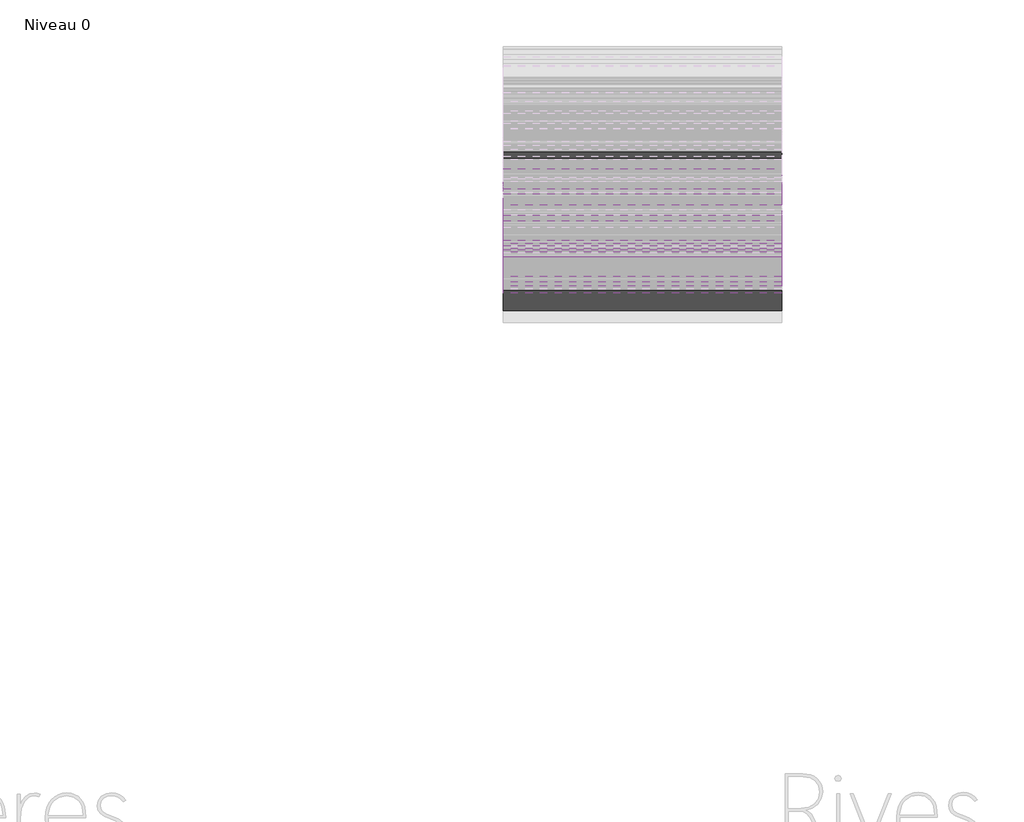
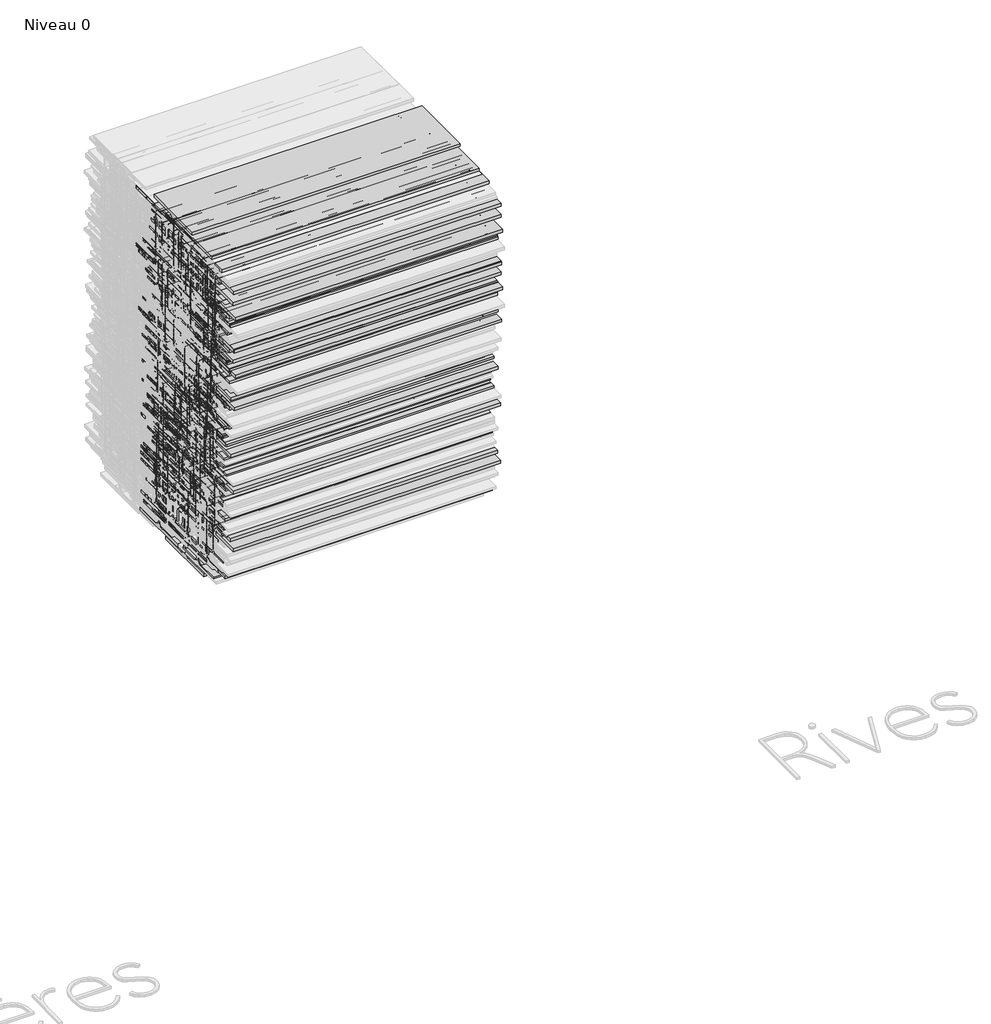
# One storey, part 9 of 26: 157 beams.
"""IFC4 building model written with IfcOpenShell, lengths in millimetres."""

from ifc_helpers import new_model, si_unit, origin, place, context, project, spatial, transform, mapped, element, save
from components import hea160_c7043086, hea240_b9c7735d, hea300_d8dc5cb0

model = new_model("IFC4")

# Units and contexts
model_context = context("Model", 3, world=origin())
ifc_project = project(units=[si_unit("LENGTHUNIT", "METRE", prefix="MILLI")], contexts=[model_context])

# Site, building, storey
site = spatial("IfcSite", under=ifc_project)
building = spatial("IfcBuilding", under=site)
storey = spatial("IfcBuildingStorey", under=building, Name="Niveau 0", Elevation=0.0)

# Beams
placement = place(None, origin())
hea160_shape = hea160_c7043086(model_context)
element("IfcBeam", 1, ObjectType="HE-A : HEA160", at=placement, inside=storey, context=model_context, shape_type="MappedRepresentation", body=[
    mapped(hea160_shape, transform((0.0, -5310.2474477, 734.0137583), x_axis=(1.0, 0.0, 0.0), y_axis=(0.0, 1.0, 0.0), z_axis=(0.0, 0.0, 1.0))),
])
element("IfcBeam", 2, ObjectType="HE-A : HEA160", at=placement, inside=storey, context=model_context, shape_type="MappedRepresentation", body=[
    mapped(hea160_shape, transform((0.0, -5156.6232445, 602.3054206), x_axis=(1.0, 0.0, 0.0), y_axis=(0.0, 1.0, 0.0), z_axis=(0.0, 0.0, 1.0))),
])
element("IfcBeam", 3, ObjectType="HE-A : HEA160", at=placement, inside=storey, context=model_context, shape_type="MappedRepresentation", body=[
    mapped(hea160_shape, transform((0.0, -5195.6267569, 621.5759526), x_axis=(1.0, 0.0, 0.0), y_axis=(0.0, 1.0, 0.0), z_axis=(0.0, 0.0, 1.0))),
])
element("IfcBeam", 4, ObjectType="HE-A : HEA160", at=placement, inside=storey, context=model_context, shape_type="MappedRepresentation", body=[
    mapped(hea160_shape, transform((0.0, -5408.6812732, 684.6616277), x_axis=(1.0, 0.0, 0.0), y_axis=(0.0, 1.0, 0.0), z_axis=(0.0, 0.0, 1.0))),
])
element("IfcBeam", 5, ObjectType="HE-A : HEA160", at=placement, inside=storey, context=model_context, shape_type="MappedRepresentation", body=[
    mapped(hea160_shape, transform((0.0, -5413.0995592, 768.2811761), x_axis=(1.0, 0.0, 0.0), y_axis=(0.0, 1.0, 0.0), z_axis=(0.0, 0.0, 1.0))),
])
element("IfcBeam", 6, ObjectType="HE-A : HEA160", at=placement, inside=storey, context=model_context, shape_type="MappedRepresentation", body=[
    mapped(hea160_shape, transform((0.0, -5424.0973025, 269.5728981), x_axis=(1.0, 0.0, 0.0), y_axis=(0.0, 1.0, 0.0), z_axis=(0.0, 0.0, 1.0))),
])
element("IfcBeam", 7, ObjectType="HE-A : HEA160", at=placement, inside=storey, context=model_context, shape_type="MappedRepresentation", body=[
    mapped(hea160_shape, transform((0.0, -5417.2380481, 1163.1332694), x_axis=(1.0, 0.0, 0.0), y_axis=(0.0, 1.0, 0.0), z_axis=(0.0, 0.0, 1.0))),
])
element("IfcBeam", 8, ObjectType="HE-A : HEA160", at=placement, inside=storey, context=model_context, shape_type="MappedRepresentation", body=[
    mapped(hea160_shape, transform((0.0, -5452.8932536, 1163.4501627), x_axis=(1.0, 0.0, 0.0), y_axis=(0.0, 1.0, 0.0), z_axis=(0.0, 0.0, 1.0))),
])
element("IfcBeam", 9, ObjectType="HE-A : HEA160", at=placement, inside=storey, context=model_context, shape_type="MappedRepresentation", body=[
    mapped(hea160_shape, transform((0.0, -5090.8767213, 305.532705), x_axis=(1.0, 0.0, 0.0), y_axis=(0.0, 1.0, 0.0), z_axis=(0.0, 0.0, 1.0))),
])
element("IfcBeam", 10, ObjectType="HE-A : HEA160", at=placement, inside=storey, context=model_context, shape_type="MappedRepresentation", body=[
    mapped(hea160_shape, transform((0.0, -5068.291238, 231.2218942), x_axis=(1.0, 0.0, 0.0), y_axis=(0.0, 1.0, 0.0), z_axis=(0.0, 0.0, 1.0))),
])
element("IfcBeam", 11, ObjectType="HE-A : HEA160", at=placement, inside=storey, context=model_context, shape_type="MappedRepresentation", body=[
    mapped(hea160_shape, transform((0.0, -5076.8345222, 23.8951277), x_axis=(1.0, 0.0, 0.0), y_axis=(0.0, 1.0, 0.0), z_axis=(0.0, 0.0, 1.0))),
])
element("IfcBeam", 12, ObjectType="HE-A : HEA160", at=placement, inside=storey, context=model_context, shape_type="MappedRepresentation", body=[
    mapped(hea160_shape, transform((0.0, -5278.7500388, 255.0826864), x_axis=(1.0, 0.0, 0.0), y_axis=(0.0, 1.0, 0.0), z_axis=(0.0, 0.0, 1.0))),
])
element("IfcBeam", 13, ObjectType="HE-A : HEA160", at=placement, inside=storey, context=model_context, shape_type="MappedRepresentation", body=[
    mapped(hea160_shape, transform((0.0, -5185.9562163, 507.660791), x_axis=(1.0, 0.0, 0.0), y_axis=(0.0, 1.0, 0.0), z_axis=(0.0, 0.0, 1.0))),
])
element("IfcBeam", 14, ObjectType="HE-A : HEA160", at=placement, inside=storey, context=model_context, shape_type="MappedRepresentation", body=[
    mapped(hea160_shape, transform((0.0, -5148.429632, 542.4529783), x_axis=(1.0, 0.0, 0.0), y_axis=(0.0, 1.0, 0.0), z_axis=(0.0, 0.0, 1.0))),
])
element("IfcBeam", 15, ObjectType="HE-A : HEA160", at=placement, inside=storey, context=model_context, shape_type="MappedRepresentation", body=[
    mapped(hea160_shape, transform((0.0, -5092.6139111, 982.3152341), x_axis=(1.0, 0.0, 0.0), y_axis=(0.0, 1.0, 0.0), z_axis=(0.0, 0.0, 1.0))),
])
element("IfcBeam", 16, ObjectType="HE-A : HEA160", at=placement, inside=storey, context=model_context, shape_type="MappedRepresentation", body=[
    mapped(hea160_shape, transform((0.0, -5475.0795286, 858.2683643), x_axis=(1.0, 0.0, 0.0), y_axis=(0.0, 1.0, 0.0), z_axis=(0.0, 0.0, 1.0))),
])
element("IfcBeam", 17, ObjectType="HE-A : HEA160", at=placement, inside=storey, context=model_context, shape_type="MappedRepresentation", body=[
    mapped(hea160_shape, transform((0.0, -5451.5943952, 226.1417788), x_axis=(1.0, 0.0, 0.0), y_axis=(0.0, 1.0, 0.0), z_axis=(0.0, 0.0, 1.0))),
])
element("IfcBeam", 18, ObjectType="HE-A : HEA160", at=placement, inside=storey, context=model_context, shape_type="MappedRepresentation", body=[
    mapped(hea160_shape, transform((0.0, -5452.3549311, 1122.9046108), x_axis=(1.0, 0.0, 0.0), y_axis=(0.0, 1.0, 0.0), z_axis=(0.0, 0.0, 1.0))),
])
element("IfcBeam", 19, ObjectType="HE-A : HEA160", at=placement, inside=storey, context=model_context, shape_type="MappedRepresentation", body=[
    mapped(hea160_shape, transform((0.0, -5487.2560454, 1074.9316009), x_axis=(1.0, 0.0, 0.0), y_axis=(0.0, 1.0, 0.0), z_axis=(0.0, 0.0, 1.0))),
])
element("IfcBeam", 20, ObjectType="HE-A : HEA160", at=placement, inside=storey, context=model_context, shape_type="MappedRepresentation", body=[
    mapped(hea160_shape, transform((0.0, -5366.8637856, 1328.08809), x_axis=(1.0, 0.0, 0.0), y_axis=(0.0, 1.0, 0.0), z_axis=(0.0, 0.0, 1.0))),
])
element("IfcBeam", 21, ObjectType="HE-A : HEA160", at=placement, inside=storey, context=model_context, shape_type="MappedRepresentation", body=[
    mapped(hea160_shape, transform((0.0, -5392.8745728, 1287.1530981), x_axis=(1.0, 0.0, 0.0), y_axis=(0.0, 1.0, 0.0), z_axis=(0.0, 0.0, 1.0))),
])
element("IfcBeam", 22, ObjectType="HE-A : HEA160", at=placement, inside=storey, context=model_context, shape_type="MappedRepresentation", body=[
    mapped(hea160_shape, transform((0.0, -5408.721485, 1322.8815273), x_axis=(1.0, 0.0, 0.0), y_axis=(0.0, 1.0, 0.0), z_axis=(0.0, 0.0, 1.0))),
])
element("IfcBeam", 23, ObjectType="HE-A : HEA160", at=placement, inside=storey, context=model_context, shape_type="MappedRepresentation", body=[
    mapped(hea160_shape, transform((0.0, -5315.808306, 607.5529659), x_axis=(1.0, 0.0, 0.0), y_axis=(0.0, 1.0, 0.0), z_axis=(0.0, 0.0, 1.0))),
])
element("IfcBeam", 24, ObjectType="HE-A : HEA160", at=placement, inside=storey, context=model_context, shape_type="MappedRepresentation", body=[
    mapped(hea160_shape, transform((0.0, -5273.8264166, 673.9044938), x_axis=(1.0, 0.0, 0.0), y_axis=(0.0, 1.0, 0.0), z_axis=(0.0, 0.0, 1.0))),
])
element("IfcBeam", 25, ObjectType="HE-A : HEA160", at=placement, inside=storey, context=model_context, shape_type="MappedRepresentation", body=[
    mapped(hea160_shape, transform((0.0, -5054.8941824, 1314.7753347), x_axis=(1.0, 0.0, 0.0), y_axis=(0.0, 1.0, 0.0), z_axis=(0.0, 0.0, 1.0))),
])
element("IfcBeam", 26, ObjectType="HE-A : HEA160", at=placement, inside=storey, context=model_context, shape_type="MappedRepresentation", body=[
    mapped(hea160_shape, transform((0.0, -5440.0590715, 1294.1323523), x_axis=(1.0, 0.0, 0.0), y_axis=(0.0, 1.0, 0.0), z_axis=(0.0, 0.0, 1.0))),
])
element("IfcBeam", 27, ObjectType="HE-A : HEA160", at=placement, inside=storey, context=model_context, shape_type="MappedRepresentation", body=[
    mapped(hea160_shape, transform((0.0, -5407.4164117, 437.0562676), x_axis=(1.0, 0.0, 0.0), y_axis=(0.0, 1.0, 0.0), z_axis=(0.0, 0.0, 1.0))),
])
element("IfcBeam", 28, ObjectType="HE-A : HEA160", at=placement, inside=storey, context=model_context, shape_type="MappedRepresentation", body=[
    mapped(hea160_shape, transform((0.0, -5406.2451982, 606.9308561), x_axis=(1.0, 0.0, 0.0), y_axis=(0.0, 1.0, 0.0), z_axis=(0.0, 0.0, 1.0))),
])
element("IfcBeam", 29, ObjectType="HE-A : HEA160", at=placement, inside=storey, context=model_context, shape_type="MappedRepresentation", body=[
    mapped(hea160_shape, transform((0.0, -5322.1846436, 459.9355121), x_axis=(1.0, 0.0, 0.0), y_axis=(0.0, 1.0, 0.0), z_axis=(0.0, 0.0, 1.0))),
])
element("IfcBeam", 30, ObjectType="HE-A : HEA160", at=placement, inside=storey, context=model_context, shape_type="MappedRepresentation", body=[
    mapped(hea160_shape, transform((0.0, -5084.0772269, 662.6042139), x_axis=(1.0, 0.0, 0.0), y_axis=(0.0, 1.0, 0.0), z_axis=(0.0, 0.0, 1.0))),
])
element("IfcBeam", 31, ObjectType="HE-A : HEA160", at=placement, inside=storey, context=model_context, shape_type="MappedRepresentation", body=[
    mapped(hea160_shape, transform((0.0, -5418.7467929, 38.8577432), x_axis=(1.0, 0.0, 0.0), y_axis=(0.0, 1.0, 0.0), z_axis=(0.0, 0.0, 1.0))),
])
element("IfcBeam", 32, ObjectType="HE-A : HEA160", at=placement, inside=storey, context=model_context, shape_type="MappedRepresentation", body=[
    mapped(hea160_shape, transform((0.0, -5394.4269431, 384.4364304), x_axis=(1.0, 0.0, 0.0), y_axis=(0.0, 1.0, 0.0), z_axis=(0.0, 0.0, 1.0))),
])
element("IfcBeam", 33, ObjectType="HE-A : HEA160", at=placement, inside=storey, context=model_context, shape_type="MappedRepresentation", body=[
    mapped(hea160_shape, transform((0.0, -5457.982213, 392.9262124), x_axis=(1.0, 0.0, 0.0), y_axis=(0.0, 1.0, 0.0), z_axis=(0.0, 0.0, 1.0))),
])
element("IfcBeam", 34, ObjectType="HE-A : HEA160", at=placement, inside=storey, context=model_context, shape_type="MappedRepresentation", body=[
    mapped(hea160_shape, transform((0.0, -5084.2120675, 75.0731406), x_axis=(1.0, 0.0, 0.0), y_axis=(0.0, 1.0, 0.0), z_axis=(0.0, 0.0, 1.0))),
])
element("IfcBeam", 35, ObjectType="HE-A : HEA160", at=placement, inside=storey, context=model_context, shape_type="MappedRepresentation", body=[
    mapped(hea160_shape, transform((0.0, -5009.4813796, 133.8237114), x_axis=(1.0, 0.0, 0.0), y_axis=(0.0, 1.0, 0.0), z_axis=(0.0, 0.0, 1.0))),
])
element("IfcBeam", 36, ObjectType="HE-A : HEA160", at=placement, inside=storey, context=model_context, shape_type="MappedRepresentation", body=[
    mapped(hea160_shape, transform((0.0, -5036.3230188, 1221.0346391), x_axis=(1.0, 0.0, 0.0), y_axis=(0.0, 1.0, 0.0), z_axis=(0.0, 0.0, 1.0))),
])
element("IfcBeam", 37, ObjectType="HE-A : HEA160", at=placement, inside=storey, context=model_context, shape_type="MappedRepresentation", body=[
    mapped(hea160_shape, transform((0.0, -5144.5780236, 901.6449768), x_axis=(1.0, 0.0, 0.0), y_axis=(0.0, 1.0, 0.0), z_axis=(0.0, 0.0, 1.0))),
])
element("IfcBeam", 38, ObjectType="HE-A : HEA160", at=placement, inside=storey, context=model_context, shape_type="MappedRepresentation", body=[
    mapped(hea160_shape, transform((0.0, -5259.4768208, 1286.9517926), x_axis=(1.0, 0.0, 0.0), y_axis=(0.0, 1.0, 0.0), z_axis=(0.0, 0.0, 1.0))),
])
element("IfcBeam", 39, ObjectType="HE-A : HEA160", at=placement, inside=storey, context=model_context, shape_type="MappedRepresentation", body=[
    mapped(hea160_shape, transform((0.0, -5282.0980091, 1329.1060044), x_axis=(1.0, 0.0, 0.0), y_axis=(0.0, 1.0, 0.0), z_axis=(0.0, 0.0, 1.0))),
])
element("IfcBeam", 40, ObjectType="HE-A : HEA160", at=placement, inside=storey, context=model_context, shape_type="MappedRepresentation", body=[
    mapped(hea160_shape, transform((0.0, -5239.1200343, 1215.6175268), x_axis=(1.0, 0.0, 0.0), y_axis=(0.0, 1.0, 0.0), z_axis=(0.0, 0.0, 1.0))),
])
element("IfcBeam", 41, ObjectType="HE-A : HEA160", at=placement, inside=storey, context=model_context, shape_type="MappedRepresentation", body=[
    mapped(hea160_shape, transform((0.0, -5422.0921715, 1229.4641604), x_axis=(1.0, 0.0, 0.0), y_axis=(0.0, 1.0, 0.0), z_axis=(0.0, 0.0, 1.0))),
])
element("IfcBeam", 42, ObjectType="HE-A : HEA160", at=placement, inside=storey, context=model_context, shape_type="MappedRepresentation", body=[
    mapped(hea160_shape, transform((0.0, -5403.2827333, 1126.8234647), x_axis=(1.0, 0.0, 0.0), y_axis=(0.0, 1.0, 0.0), z_axis=(0.0, 0.0, 1.0))),
])
element("IfcBeam", 43, ObjectType="HE-A : HEA160", at=placement, inside=storey, context=model_context, shape_type="MappedRepresentation", body=[
    mapped(hea160_shape, transform((0.0, -5437.8339711, 994.560909), x_axis=(1.0, 0.0, 0.0), y_axis=(0.0, 1.0, 0.0), z_axis=(0.0, 0.0, 1.0))),
])
element("IfcBeam", 44, ObjectType="HE-A : HEA160", at=placement, inside=storey, context=model_context, shape_type="MappedRepresentation", body=[
    mapped(hea160_shape, transform((0.0, -5382.1174401, 1012.1810895), x_axis=(1.0, 0.0, 0.0), y_axis=(0.0, 1.0, 0.0), z_axis=(0.0, 0.0, 1.0))),
])
element("IfcBeam", 45, ObjectType="HE-A : HEA160", at=placement, inside=storey, context=model_context, shape_type="MappedRepresentation", body=[
    mapped(hea160_shape, transform((0.0, -5384.3242141, 1059.2188516), x_axis=(1.0, 0.0, 0.0), y_axis=(0.0, 1.0, 0.0), z_axis=(0.0, 0.0, 1.0))),
])
element("IfcBeam", 46, ObjectType="HE-A : HEA160", at=placement, inside=storey, context=model_context, shape_type="MappedRepresentation", body=[
    mapped(hea160_shape, transform((0.0, -5344.3842435, 635.9936126), x_axis=(1.0, 0.0, 0.0), y_axis=(0.0, 1.0, 0.0), z_axis=(0.0, 0.0, 1.0))),
])
element("IfcBeam", 47, ObjectType="HE-A : HEA160", at=placement, inside=storey, context=model_context, shape_type="MappedRepresentation", body=[
    mapped(hea160_shape, transform((0.0, -5350.6881033, 703.3437686), x_axis=(1.0, 0.0, 0.0), y_axis=(0.0, 1.0, 0.0), z_axis=(0.0, 0.0, 1.0))),
])
element("IfcBeam", 48, ObjectType="HE-A : HEA160", at=placement, inside=storey, context=model_context, shape_type="MappedRepresentation", body=[
    mapped(hea160_shape, transform((0.0, -5386.902328, 764.8503633), x_axis=(1.0, 0.0, 0.0), y_axis=(0.0, 1.0, 0.0), z_axis=(0.0, 0.0, 1.0))),
])
element("IfcBeam", 49, ObjectType="HE-A : HEA160", at=placement, inside=storey, context=model_context, shape_type="MappedRepresentation", body=[
    mapped(hea160_shape, transform((0.0, -5483.2839659, 534.3429806), x_axis=(1.0, 0.0, 0.0), y_axis=(0.0, 1.0, 0.0), z_axis=(0.0, 0.0, 1.0))),
])
element("IfcBeam", 50, ObjectType="HE-A : HEA160", at=placement, inside=storey, context=model_context, shape_type="MappedRepresentation", body=[
    mapped(hea160_shape, transform((0.0, -5466.1444244, 602.5274127), x_axis=(1.0, 0.0, 0.0), y_axis=(0.0, 1.0, 0.0), z_axis=(0.0, 0.0, 1.0))),
])
element("IfcBeam", 51, ObjectType="HE-A : HEA160", at=placement, inside=storey, context=model_context, shape_type="MappedRepresentation", body=[
    mapped(hea160_shape, transform((0.0, -5456.022893, 556.7332935), x_axis=(1.0, 0.0, 0.0), y_axis=(0.0, 1.0, 0.0), z_axis=(0.0, 0.0, 1.0))),
])
element("IfcBeam", 52, ObjectType="HE-A : HEA160", at=placement, inside=storey, context=model_context, shape_type="MappedRepresentation", body=[
    mapped(hea160_shape, transform((0.0, -5399.5483701, 648.7433705), x_axis=(1.0, 0.0, 0.0), y_axis=(0.0, 1.0, 0.0), z_axis=(0.0, 0.0, 1.0))),
])
element("IfcBeam", 53, ObjectType="HE-A : HEA160", at=placement, inside=storey, context=model_context, shape_type="MappedRepresentation", body=[
    mapped(hea160_shape, transform((0.0, -5456.9849363, 99.6643387), x_axis=(1.0, 0.0, 0.0), y_axis=(0.0, 1.0, 0.0), z_axis=(0.0, 0.0, 1.0))),
])
element("IfcBeam", 54, ObjectType="HE-A : HEA160", at=placement, inside=storey, context=model_context, shape_type="MappedRepresentation", body=[
    mapped(hea160_shape, transform((0.0, -5388.270868, 309.7808617), x_axis=(1.0, 0.0, 0.0), y_axis=(0.0, 1.0, 0.0), z_axis=(0.0, 0.0, 1.0))),
])
element("IfcBeam", 55, ObjectType="HE-A : HEA160", at=placement, inside=storey, context=model_context, shape_type="MappedRepresentation", body=[
    mapped(hea160_shape, transform((0.0, -5182.7125325, 17.6944582), x_axis=(1.0, 0.0, 0.0), y_axis=(0.0, 1.0, 0.0), z_axis=(0.0, 0.0, 1.0))),
])
element("IfcBeam", 56, ObjectType="HE-A : HEA160", at=placement, inside=storey, context=model_context, shape_type="MappedRepresentation", body=[
    mapped(hea160_shape, transform((0.0, -5268.3628293, 216.6744114), x_axis=(1.0, 0.0, 0.0), y_axis=(0.0, 1.0, 0.0), z_axis=(0.0, 0.0, 1.0))),
])
element("IfcBeam", 57, ObjectType="HE-A : HEA160", at=placement, inside=storey, context=model_context, shape_type="MappedRepresentation", body=[
    mapped(hea160_shape, transform((0.0, -5175.3193882, 468.2173891), x_axis=(1.0, 0.0, 0.0), y_axis=(0.0, 1.0, 0.0), z_axis=(0.0, 0.0, 1.0))),
])
element("IfcBeam", 58, ObjectType="HE-A : HEA160", at=placement, inside=storey, context=model_context, shape_type="MappedRepresentation", body=[
    mapped(hea160_shape, transform((0.0, -5172.3636764, 393.1271118), x_axis=(1.0, 0.0, 0.0), y_axis=(0.0, 1.0, 0.0), z_axis=(0.0, 0.0, 1.0))),
])
element("IfcBeam", 59, ObjectType="HE-A : HEA160", at=placement, inside=storey, context=model_context, shape_type="MappedRepresentation", body=[
    mapped(hea160_shape, transform((0.0, -5264.3678132, 266.6156424), x_axis=(1.0, 0.0, 0.0), y_axis=(0.0, 1.0, 0.0), z_axis=(0.0, 0.0, 1.0))),
])
element("IfcBeam", 60, ObjectType="HE-A : HEA160", at=placement, inside=storey, context=model_context, shape_type="MappedRepresentation", body=[
    mapped(hea160_shape, transform((0.0, -5188.7558458, 262.8984991), x_axis=(1.0, 0.0, 0.0), y_axis=(0.0, 1.0, 0.0), z_axis=(0.0, 0.0, 1.0))),
])
element("IfcBeam", 61, ObjectType="HE-A : HEA160", at=placement, inside=storey, context=model_context, shape_type="MappedRepresentation", body=[
    mapped(hea160_shape, transform((0.0, -5216.5292874, 315.1017893), x_axis=(1.0, 0.0, 0.0), y_axis=(0.0, 1.0, 0.0), z_axis=(0.0, 0.0, 1.0))),
])
element("IfcBeam", 62, ObjectType="HE-A : HEA160", at=placement, inside=storey, context=model_context, shape_type="MappedRepresentation", body=[
    mapped(hea160_shape, transform((0.0, -5029.5882007, 800.3294094), x_axis=(1.0, 0.0, 0.0), y_axis=(0.0, 1.0, 0.0), z_axis=(0.0, 0.0, 1.0))),
])
element("IfcBeam", 63, ObjectType="HE-A : HEA160", at=placement, inside=storey, context=model_context, shape_type="MappedRepresentation", body=[
    mapped(hea160_shape, transform((0.0, -5019.8490248, 392.0270981), x_axis=(1.0, 0.0, 0.0), y_axis=(0.0, 1.0, 0.0), z_axis=(0.0, 0.0, 1.0))),
])
element("IfcBeam", 64, ObjectType="HE-A : HEA160", at=placement, inside=storey, context=model_context, shape_type="MappedRepresentation", body=[
    mapped(hea160_shape, transform((0.0, -5022.7327068, 1115.6007872), x_axis=(1.0, 0.0, 0.0), y_axis=(0.0, 1.0, 0.0), z_axis=(0.0, 0.0, 1.0))),
])
element("IfcBeam", 65, ObjectType="HE-A : HEA160", at=placement, inside=storey, context=model_context, shape_type="MappedRepresentation", body=[
    mapped(hea160_shape, transform((0.0, -5025.6773584, 1161.5777182), x_axis=(1.0, 0.0, 0.0), y_axis=(0.0, 1.0, 0.0), z_axis=(0.0, 0.0, 1.0))),
])
hea240_shape = hea240_b9c7735d(model_context)
element("IfcBeam", 66, ObjectType="HE-A : HEA240", at=placement, inside=storey, context=model_context, shape_type="MappedRepresentation", body=[
    mapped(hea240_shape, transform((0.0, -5422.7202519, 302.5757728), x_axis=(1.0, 0.0, 0.0), y_axis=(0.0, 1.0, 0.0), z_axis=(0.0, 0.0, 1.0))),
])
element("IfcBeam", 67, ObjectType="HE-A : HEA240", at=placement, inside=storey, context=model_context, shape_type="MappedRepresentation", body=[
    mapped(hea240_shape, transform((0.0, -5010.5729946, 88.6029345), x_axis=(1.0, 0.0, 0.0), y_axis=(0.0, 1.0, 0.0), z_axis=(0.0, 0.0, 1.0))),
])
element("IfcBeam", 68, ObjectType="HE-A : HEA240", at=placement, inside=storey, context=model_context, shape_type="MappedRepresentation", body=[
    mapped(hea240_shape, transform((0.0, -5318.3631781, 204.5377734), x_axis=(1.0, 0.0, 0.0), y_axis=(0.0, 1.0, 0.0), z_axis=(0.0, 0.0, 1.0))),
])
element("IfcBeam", 69, ObjectType="HE-A : HEA240", at=placement, inside=storey, context=model_context, shape_type="MappedRepresentation", body=[
    mapped(hea240_shape, transform((0.0, -5197.7254934, 396.5361744), x_axis=(1.0, 0.0, 0.0), y_axis=(0.0, 1.0, 0.0), z_axis=(0.0, 0.0, 1.0))),
])
element("IfcBeam", 70, ObjectType="HE-A : HEA240", at=placement, inside=storey, context=model_context, shape_type="MappedRepresentation", body=[
    mapped(hea240_shape, transform((0.0, -5173.6498364, 460.1554798), x_axis=(1.0, 0.0, 0.0), y_axis=(0.0, 1.0, 0.0), z_axis=(0.0, 0.0, 1.0))),
])
element("IfcBeam", 71, ObjectType="HE-A : HEA240", at=placement, inside=storey, context=model_context, shape_type="MappedRepresentation", body=[
    mapped(hea240_shape, transform((0.0, -5202.696197, 552.42987), x_axis=(1.0, 0.0, 0.0), y_axis=(0.0, 1.0, 0.0), z_axis=(0.0, 0.0, 1.0))),
])
element("IfcBeam", 72, ObjectType="HE-A : HEA240", at=placement, inside=storey, context=model_context, shape_type="MappedRepresentation", body=[
    mapped(hea240_shape, transform((0.0, -5274.6709981, 1193.6634452), x_axis=(1.0, 0.0, 0.0), y_axis=(0.0, 1.0, 0.0), z_axis=(0.0, 0.0, 1.0))),
])
element("IfcBeam", 73, ObjectType="HE-A : HEA240", at=placement, inside=storey, context=model_context, shape_type="MappedRepresentation", body=[
    mapped(hea240_shape, transform((0.0, -5253.7219075, 1165.9990041), x_axis=(1.0, 0.0, 0.0), y_axis=(0.0, 1.0, 0.0), z_axis=(0.0, 0.0, 1.0))),
])
element("IfcBeam", 74, ObjectType="HE-A : HEA240", at=placement, inside=storey, context=model_context, shape_type="MappedRepresentation", body=[
    mapped(hea240_shape, transform((0.0, -5240.3643683, 573.1026714), x_axis=(1.0, 0.0, 0.0), y_axis=(0.0, 1.0, 0.0), z_axis=(0.0, 0.0, 1.0))),
])
element("IfcBeam", 75, ObjectType="HE-A : HEA240", at=placement, inside=storey, context=model_context, shape_type="MappedRepresentation", body=[
    mapped(hea240_shape, transform((0.0, -5445.1045464, 914.7606841), x_axis=(1.0, 0.0, 0.0), y_axis=(0.0, 1.0, 0.0), z_axis=(0.0, 0.0, 1.0))),
])
element("IfcBeam", 76, ObjectType="HE-A : HEA240", at=placement, inside=storey, context=model_context, shape_type="MappedRepresentation", body=[
    mapped(hea240_shape, transform((0.0, -5158.3892027, 381.5310609), x_axis=(1.0, 0.0, 0.0), y_axis=(0.0, 1.0, 0.0), z_axis=(0.0, 0.0, 1.0))),
])
element("IfcBeam", 77, ObjectType="HE-A : HEA240", at=placement, inside=storey, context=model_context, shape_type="MappedRepresentation", body=[
    mapped(hea240_shape, transform((0.0, -5098.4968878, 383.1971583), x_axis=(1.0, 0.0, 0.0), y_axis=(0.0, 1.0, 0.0), z_axis=(0.0, 0.0, 1.0))),
])
element("IfcBeam", 78, ObjectType="HE-A : HEA240", at=placement, inside=storey, context=model_context, shape_type="MappedRepresentation", body=[
    mapped(hea240_shape, transform((0.0, -5386.5468414, 1243.8100854), x_axis=(1.0, 0.0, 0.0), y_axis=(0.0, 1.0, 0.0), z_axis=(0.0, 0.0, 1.0))),
])
element("IfcBeam", 79, ObjectType="HE-A : HEA240", at=placement, inside=storey, context=model_context, shape_type="MappedRepresentation", body=[
    mapped(hea240_shape, transform((0.0, -5270.7437871, 623.5639271), x_axis=(1.0, 0.0, 0.0), y_axis=(0.0, 1.0, 0.0), z_axis=(0.0, 0.0, 1.0))),
])
element("IfcBeam", 80, ObjectType="HE-A : HEA240", at=placement, inside=storey, context=model_context, shape_type="MappedRepresentation", body=[
    mapped(hea240_shape, transform((0.0, -5204.2203928, 1321.3302498), x_axis=(1.0, 0.0, 0.0), y_axis=(0.0, 1.0, 0.0), z_axis=(0.0, 0.0, 1.0))),
])
element("IfcBeam", 81, ObjectType="HE-A : HEA240", at=placement, inside=storey, context=model_context, shape_type="MappedRepresentation", body=[
    mapped(hea240_shape, transform((0.0, -5098.4979426, 1301.7518217), x_axis=(1.0, 0.0, 0.0), y_axis=(0.0, 1.0, 0.0), z_axis=(0.0, 0.0, 1.0))),
])
element("IfcBeam", 82, ObjectType="HE-A : HEA240", at=placement, inside=storey, context=model_context, shape_type="MappedRepresentation", body=[
    mapped(hea240_shape, transform((0.0, -5477.0690508, 1092.0301866), x_axis=(1.0, 0.0, 0.0), y_axis=(0.0, 1.0, 0.0), z_axis=(0.0, 0.0, 1.0))),
])
element("IfcBeam", 83, ObjectType="HE-A : HEA240", at=placement, inside=storey, context=model_context, shape_type="MappedRepresentation", body=[
    mapped(hea240_shape, transform((0.0, -5432.7181647, 493.6802426), x_axis=(1.0, 0.0, 0.0), y_axis=(0.0, 1.0, 0.0), z_axis=(0.0, 0.0, 1.0))),
])
element("IfcBeam", 84, ObjectType="HE-A : HEA240", at=placement, inside=storey, context=model_context, shape_type="MappedRepresentation", body=[
    mapped(hea240_shape, transform((0.0, -5355.712945, 549.7419412), x_axis=(1.0, 0.0, 0.0), y_axis=(0.0, 1.0, 0.0), z_axis=(0.0, 0.0, 1.0))),
])
element("IfcBeam", 85, ObjectType="HE-A : HEA240", at=placement, inside=storey, context=model_context, shape_type="MappedRepresentation", body=[
    mapped(hea240_shape, transform((0.0, -5340.6846999, 14.5486988), x_axis=(1.0, 0.0, 0.0), y_axis=(0.0, 1.0, 0.0), z_axis=(0.0, 0.0, 1.0))),
])
element("IfcBeam", 86, ObjectType="HE-A : HEA240", at=placement, inside=storey, context=model_context, shape_type="MappedRepresentation", body=[
    mapped(hea240_shape, transform((0.0, -5141.2691458, 101.549227), x_axis=(1.0, 0.0, 0.0), y_axis=(0.0, 1.0, 0.0), z_axis=(0.0, 0.0, 1.0))),
])
element("IfcBeam", 87, ObjectType="HE-A : HEA240", at=placement, inside=storey, context=model_context, shape_type="MappedRepresentation", body=[
    mapped(hea240_shape, transform((0.0, -5096.5588332, 184.5928066), x_axis=(1.0, 0.0, 0.0), y_axis=(0.0, 1.0, 0.0), z_axis=(0.0, 0.0, 1.0))),
])
element("IfcBeam", 88, ObjectType="HE-A : HEA240", at=placement, inside=storey, context=model_context, shape_type="MappedRepresentation", body=[
    mapped(hea240_shape, transform((0.0, -5077.887837, 992.2370695), x_axis=(1.0, 0.0, 0.0), y_axis=(0.0, 1.0, 0.0), z_axis=(0.0, 0.0, 1.0))),
])
element("IfcBeam", 89, ObjectType="HE-A : HEA240", at=placement, inside=storey, context=model_context, shape_type="MappedRepresentation", body=[
    mapped(hea240_shape, transform((0.0, -5087.3939785, 1228.0087224), x_axis=(1.0, 0.0, 0.0), y_axis=(0.0, 1.0, 0.0), z_axis=(0.0, 0.0, 1.0))),
])
element("IfcBeam", 90, ObjectType="HE-A : HEA240", at=placement, inside=storey, context=model_context, shape_type="MappedRepresentation", body=[
    mapped(hea240_shape, transform((0.0, -5153.0980737, 961.9552245), x_axis=(1.0, 0.0, 0.0), y_axis=(0.0, 1.0, 0.0), z_axis=(0.0, 0.0, 1.0))),
])
element("IfcBeam", 91, ObjectType="HE-A : HEA240", at=placement, inside=storey, context=model_context, shape_type="MappedRepresentation", body=[
    mapped(hea240_shape, transform((0.0, -5220.1451278, 1279.176038), x_axis=(1.0, 0.0, 0.0), y_axis=(0.0, 1.0, 0.0), z_axis=(0.0, 0.0, 1.0))),
])
element("IfcBeam", 92, ObjectType="HE-A : HEA240", at=placement, inside=storey, context=model_context, shape_type="MappedRepresentation", body=[
    mapped(hea240_shape, transform((0.0, -5183.3157237, 1321.3302498), x_axis=(1.0, 0.0, 0.0), y_axis=(0.0, 1.0, 0.0), z_axis=(0.0, 0.0, 1.0))),
])
element("IfcBeam", 93, ObjectType="HE-A : HEA240", at=placement, inside=storey, context=model_context, shape_type="MappedRepresentation", body=[
    mapped(hea240_shape, transform((0.0, -5416.4516417, 1176.9459837), x_axis=(1.0, 0.0, 0.0), y_axis=(0.0, 1.0, 0.0), z_axis=(0.0, 0.0, 1.0))),
])
element("IfcBeam", 94, ObjectType="HE-A : HEA240", at=placement, inside=storey, context=model_context, shape_type="MappedRepresentation", body=[
    mapped(hea240_shape, transform((0.0, -5442.7238547, 1116.2147557), x_axis=(1.0, 0.0, 0.0), y_axis=(0.0, 1.0, 0.0), z_axis=(0.0, 0.0, 1.0))),
])
element("IfcBeam", 95, ObjectType="HE-A : HEA240", at=placement, inside=storey, context=model_context, shape_type="MappedRepresentation", body=[
    mapped(hea240_shape, transform((0.0, -5398.0578828, 955.2786365), x_axis=(1.0, 0.0, 0.0), y_axis=(0.0, 1.0, 0.0), z_axis=(0.0, 0.0, 1.0))),
])
element("IfcBeam", 96, ObjectType="HE-A : HEA240", at=placement, inside=storey, context=model_context, shape_type="MappedRepresentation", body=[
    mapped(hea240_shape, transform((0.0, -5251.5476645, 534.0491277), x_axis=(1.0, 0.0, 0.0), y_axis=(0.0, 1.0, 0.0), z_axis=(0.0, 0.0, 1.0))),
])
element("IfcBeam", 97, ObjectType="HE-A : HEA240", at=placement, inside=storey, context=model_context, shape_type="MappedRepresentation", body=[
    mapped(hea240_shape, transform((0.0, -5291.0856589, 545.8858916), x_axis=(1.0, 0.0, 0.0), y_axis=(0.0, 1.0, 0.0), z_axis=(0.0, 0.0, 1.0))),
])
element("IfcBeam", 98, ObjectType="HE-A : HEA240", at=placement, inside=storey, context=model_context, shape_type="MappedRepresentation", body=[
    mapped(hea240_shape, transform((0.0, -5109.8119232, 258.9466605), x_axis=(1.0, 0.0, 0.0), y_axis=(0.0, 1.0, 0.0), z_axis=(0.0, 0.0, 1.0))),
])
element("IfcBeam", 99, ObjectType="HE-A : HEA240", at=placement, inside=storey, context=model_context, shape_type="MappedRepresentation", body=[
    mapped(hea240_shape, transform((0.0, -5062.2288955, 317.62227), x_axis=(1.0, 0.0, 0.0), y_axis=(0.0, 1.0, 0.0), z_axis=(0.0, 0.0, 1.0))),
])
element("IfcBeam", 100, ObjectType="HE-A : HEA240", at=placement, inside=storey, context=model_context, shape_type="MappedRepresentation", body=[
    mapped(hea240_shape, transform((0.0, -5109.9284144, 334.6995898), x_axis=(1.0, 0.0, 0.0), y_axis=(0.0, 1.0, 0.0), z_axis=(0.0, 0.0, 1.0))),
])
element("IfcBeam", 101, ObjectType="HE-A : HEA240", at=placement, inside=storey, context=model_context, shape_type="MappedRepresentation", body=[
    mapped(hea240_shape, transform((0.0, -5025.5756305, 299.7731437), x_axis=(1.0, 0.0, 0.0), y_axis=(0.0, 1.0, 0.0), z_axis=(0.0, 0.0, 1.0))),
])
element("IfcBeam", 102, ObjectType="HE-A : HEA240", at=placement, inside=storey, context=model_context, shape_type="MappedRepresentation", body=[
    mapped(hea240_shape, transform((0.0, -5010.9185298, 244.6681418), x_axis=(1.0, 0.0, 0.0), y_axis=(0.0, 1.0, 0.0), z_axis=(0.0, 0.0, 1.0))),
])
element("IfcBeam", 103, ObjectType="HE-A : HEA240", at=placement, inside=storey, context=model_context, shape_type="MappedRepresentation", body=[
    mapped(hea240_shape, transform((0.0, -5017.6288406, 631.1590178), x_axis=(1.0, 0.0, 0.0), y_axis=(0.0, 1.0, 0.0), z_axis=(0.0, 0.0, 1.0))),
])
element("IfcBeam", 104, ObjectType="HE-A : HEA240", at=placement, inside=storey, context=model_context, shape_type="MappedRepresentation", body=[
    mapped(hea240_shape, transform((0.0, -5018.8821393, 724.9023312), x_axis=(1.0, 0.0, 0.0), y_axis=(0.0, 1.0, 0.0), z_axis=(0.0, 0.0, 1.0))),
])
element("IfcBeam", 105, ObjectType="HE-A : HEA240", at=placement, inside=storey, context=model_context, shape_type="MappedRepresentation", body=[
    mapped(hea240_shape, transform((0.0, -5061.3397583, 511.6270814), x_axis=(1.0, 0.0, 0.0), y_axis=(0.0, 1.0, 0.0), z_axis=(0.0, 0.0, 1.0))),
])
element("IfcBeam", 106, ObjectType="HE-A : HEA240", at=placement, inside=storey, context=model_context, shape_type="MappedRepresentation", body=[
    mapped(hea240_shape, transform((0.0, -5096.1389115, 1086.4650786), x_axis=(1.0, 0.0, 0.0), y_axis=(0.0, 1.0, 0.0), z_axis=(0.0, 0.0, 1.0))),
])
element("IfcBeam", 107, ObjectType="HE-A : HEA240", at=placement, inside=storey, context=model_context, shape_type="MappedRepresentation", body=[
    mapped(hea240_shape, transform((0.0, -5137.5708386, 1092.6819786), x_axis=(1.0, 0.0, 0.0), y_axis=(0.0, 1.0, 0.0), z_axis=(0.0, 0.0, 1.0))),
])
hea300_shape = hea300_d8dc5cb0(model_context)
element("IfcBeam", 108, ObjectType="HE-A : HEA300", at=placement, inside=storey, context=model_context, shape_type="MappedRepresentation", body=[
    mapped(hea300_shape, transform((0.0, -5324.7437843, 784.1662192), x_axis=(1.0, 0.0, 0.0), y_axis=(0.0, 1.0, 0.0), z_axis=(0.0, 0.0, 1.0))),
])
element("IfcBeam", 109, ObjectType="HE-A : HEA300", at=placement, inside=storey, context=model_context, shape_type="MappedRepresentation", body=[
    mapped(hea300_shape, transform((0.0, -5446.7703166, 713.0718516), x_axis=(1.0, 0.0, 0.0), y_axis=(0.0, 1.0, 0.0), z_axis=(0.0, 0.0, 1.0))),
])
element("IfcBeam", 110, ObjectType="HE-A : HEA300", at=placement, inside=storey, context=model_context, shape_type="MappedRepresentation", body=[
    mapped(hea300_shape, transform((0.0, -5442.5731579, 305.9635674), x_axis=(1.0, 0.0, 0.0), y_axis=(0.0, 1.0, 0.0), z_axis=(0.0, 0.0, 1.0))),
])
element("IfcBeam", 111, ObjectType="HE-A : HEA300", at=placement, inside=storey, context=model_context, shape_type="MappedRepresentation", body=[
    mapped(hea300_shape, transform((0.0, -5466.7250019, 273.5355333), x_axis=(1.0, 0.0, 0.0), y_axis=(0.0, 1.0, 0.0), z_axis=(0.0, 0.0, 1.0))),
])
element("IfcBeam", 112, ObjectType="HE-A : HEA300", at=placement, inside=storey, context=model_context, shape_type="MappedRepresentation", body=[
    mapped(hea300_shape, transform((0.0, -5482.121825, 1118.2954912), x_axis=(1.0, 0.0, 0.0), y_axis=(0.0, 1.0, 0.0), z_axis=(0.0, 0.0, 1.0))),
])
element("IfcBeam", 113, ObjectType="HE-A : HEA300", at=placement, inside=storey, context=model_context, shape_type="MappedRepresentation", body=[
    mapped(hea300_shape, transform((0.0, -5059.4260998, 82.7056374), x_axis=(1.0, 0.0, 0.0), y_axis=(0.0, 1.0, 0.0), z_axis=(0.0, 0.0, 1.0))),
])
element("IfcBeam", 114, ObjectType="HE-A : HEA300", at=placement, inside=storey, context=model_context, shape_type="MappedRepresentation", body=[
    mapped(hea300_shape, transform((0.0, -5302.0709039, 287.5000243), x_axis=(1.0, 0.0, 0.0), y_axis=(0.0, 1.0, 0.0), z_axis=(0.0, 0.0, 1.0))),
])
element("IfcBeam", 115, ObjectType="HE-A : HEA300", at=placement, inside=storey, context=model_context, shape_type="MappedRepresentation", body=[
    mapped(hea300_shape, transform((0.0, -5148.6862857, 502.7461157), x_axis=(1.0, 0.0, 0.0), y_axis=(0.0, 1.0, 0.0), z_axis=(0.0, 0.0, 1.0))),
])
element("IfcBeam", 116, ObjectType="HE-A : HEA300", at=placement, inside=storey, context=model_context, shape_type="MappedRepresentation", body=[
    mapped(hea300_shape, transform((0.0, -5278.1641866, 1132.6557975), x_axis=(1.0, 0.0, 0.0), y_axis=(0.0, 1.0, 0.0), z_axis=(0.0, 0.0, 1.0))),
])
element("IfcBeam", 117, ObjectType="HE-A : HEA300", at=placement, inside=storey, context=model_context, shape_type="MappedRepresentation", body=[
    mapped(hea300_shape, transform((0.0, -5077.0738876, 932.3524808), x_axis=(1.0, 0.0, 0.0), y_axis=(0.0, 1.0, 0.0), z_axis=(0.0, 0.0, 1.0))),
])
element("IfcBeam", 118, ObjectType="HE-A : HEA300", at=placement, inside=storey, context=model_context, shape_type="MappedRepresentation", body=[
    mapped(hea300_shape, transform((0.0, -5257.0145999, 600.9473006), x_axis=(1.0, 0.0, 0.0), y_axis=(0.0, 1.0, 0.0), z_axis=(0.0, 0.0, 1.0))),
])
element("IfcBeam", 119, ObjectType="HE-A : HEA300", at=placement, inside=storey, context=model_context, shape_type="MappedRepresentation", body=[
    mapped(hea300_shape, transform((0.0, -5231.8140581, 617.7433183), x_axis=(1.0, 0.0, 0.0), y_axis=(0.0, 1.0, 0.0), z_axis=(0.0, 0.0, 1.0))),
])
element("IfcBeam", 120, ObjectType="HE-A : HEA300", at=placement, inside=storey, context=model_context, shape_type="MappedRepresentation", body=[
    mapped(hea300_shape, transform((0.0, -5436.3453661, 845.3012591), x_axis=(1.0, 0.0, 0.0), y_axis=(0.0, 1.0, 0.0), z_axis=(0.0, 0.0, 1.0))),
])
element("IfcBeam", 121, ObjectType="HE-A : HEA300", at=placement, inside=storey, context=model_context, shape_type="MappedRepresentation", body=[
    mapped(hea300_shape, transform((0.0, -5434.1602996, 1097.9283633), x_axis=(1.0, 0.0, 0.0), y_axis=(0.0, 1.0, 0.0), z_axis=(0.0, 0.0, 1.0))),
])
element("IfcBeam", 122, ObjectType="HE-A : HEA300", at=placement, inside=storey, context=model_context, shape_type="MappedRepresentation", body=[
    mapped(hea300_shape, transform((0.0, -5031.8595256, 28.403311), x_axis=(1.0, 0.0, 0.0), y_axis=(0.0, 1.0, 0.0), z_axis=(0.0, 0.0, 1.0))),
])
element("IfcBeam", 123, ObjectType="HE-A : HEA300", at=placement, inside=storey, context=model_context, shape_type="MappedRepresentation", body=[
    mapped(hea300_shape, transform((0.0, -5093.7649053, 344.9739292), x_axis=(1.0, 0.0, 0.0), y_axis=(0.0, 1.0, 0.0), z_axis=(0.0, 0.0, 1.0))),
])
element("IfcBeam", 124, ObjectType="HE-A : HEA300", at=placement, inside=storey, context=model_context, shape_type="MappedRepresentation", body=[
    mapped(hea300_shape, transform((0.0, -5374.476565, 1286.1394955), x_axis=(1.0, 0.0, 0.0), y_axis=(0.0, 1.0, 0.0), z_axis=(0.0, 0.0, 1.0))),
])
element("IfcBeam", 125, ObjectType="HE-A : HEA300", at=placement, inside=storey, context=model_context, shape_type="MappedRepresentation", body=[
    mapped(hea300_shape, transform((0.0, -5302.7697641, 668.1974658), x_axis=(1.0, 0.0, 0.0), y_axis=(0.0, 1.0, 0.0), z_axis=(0.0, 0.0, 1.0))),
])
element("IfcBeam", 126, ObjectType="HE-A : HEA300", at=placement, inside=storey, context=model_context, shape_type="MappedRepresentation", body=[
    mapped(hea300_shape, transform((0.0, -5474.2542223, 957.5117887), x_axis=(1.0, 0.0, 0.0), y_axis=(0.0, 1.0, 0.0), z_axis=(0.0, 0.0, 1.0))),
])
element("IfcBeam", 127, ObjectType="HE-A : HEA300", at=placement, inside=storey, context=model_context, shape_type="MappedRepresentation", body=[
    mapped(hea300_shape, transform((0.0, -5396.2823748, 543.6212645), x_axis=(1.0, 0.0, 0.0), y_axis=(0.0, 1.0, 0.0), z_axis=(0.0, 0.0, 1.0))),
])
element("IfcBeam", 128, ObjectType="HE-A : HEA300", at=placement, inside=storey, context=model_context, shape_type="MappedRepresentation", body=[
    mapped(hea300_shape, transform((0.0, -5384.9518554, 491.8438036), x_axis=(1.0, 0.0, 0.0), y_axis=(0.0, 1.0, 0.0), z_axis=(0.0, 0.0, 1.0))),
])
element("IfcBeam", 129, ObjectType="HE-A : HEA300", at=placement, inside=storey, context=model_context, shape_type="MappedRepresentation", body=[
    mapped(hea300_shape, transform((0.0, -5085.8251597, 700.5086651), x_axis=(1.0, 0.0, 0.0), y_axis=(0.0, 1.0, 0.0), z_axis=(0.0, 0.0, 1.0))),
])
element("IfcBeam", 130, ObjectType="HE-A : HEA300", at=placement, inside=storey, context=model_context, shape_type="MappedRepresentation", body=[
    mapped(hea300_shape, transform((0.0, -5257.3722198, 476.4379407), x_axis=(1.0, 0.0, 0.0), y_axis=(0.0, 1.0, 0.0), z_axis=(0.0, 0.0, 1.0))),
])
element("IfcBeam", 131, ObjectType="HE-A : HEA300", at=placement, inside=storey, context=model_context, shape_type="MappedRepresentation", body=[
    mapped(hea300_shape, transform((0.0, -5267.267394, 377.5727954), x_axis=(1.0, 0.0, 0.0), y_axis=(0.0, 1.0, 0.0), z_axis=(0.0, 0.0, 1.0))),
])
element("IfcBeam", 132, ObjectType="HE-A : HEA300", at=placement, inside=storey, context=model_context, shape_type="MappedRepresentation", body=[
    mapped(hea300_shape, transform((0.0, -5180.3947951, 120.7509487), x_axis=(1.0, 0.0, 0.0), y_axis=(0.0, 1.0, 0.0), z_axis=(0.0, 0.0, 1.0))),
])
element("IfcBeam", 133, ObjectType="HE-A : HEA300", at=placement, inside=storey, context=model_context, shape_type="MappedRepresentation", body=[
    mapped(hea300_shape, transform((0.0, -5141.6741316, 209.6388843), x_axis=(1.0, 0.0, 0.0), y_axis=(0.0, 1.0, 0.0), z_axis=(0.0, 0.0, 1.0))),
])
element("IfcBeam", 134, ObjectType="HE-A : HEA300", at=placement, inside=storey, context=model_context, shape_type="MappedRepresentation", body=[
    mapped(hea300_shape, transform((0.0, -5217.4267795, 211.6802691), x_axis=(1.0, 0.0, 0.0), y_axis=(0.0, 1.0, 0.0), z_axis=(0.0, 0.0, 1.0))),
])
element("IfcBeam", 135, ObjectType="HE-A : HEA300", at=placement, inside=storey, context=model_context, shape_type="MappedRepresentation", body=[
    mapped(hea300_shape, transform((0.0, -5052.6876078, 1063.5167914), x_axis=(1.0, 0.0, 0.0), y_axis=(0.0, 1.0, 0.0), z_axis=(0.0, 0.0, 1.0))),
])
element("IfcBeam", 136, ObjectType="HE-A : HEA300", at=placement, inside=storey, context=model_context, shape_type="MappedRepresentation", body=[
    mapped(hea300_shape, transform((0.0, -5002.4570825, 1284.5896184), x_axis=(1.0, 0.0, 0.0), y_axis=(0.0, 1.0, 0.0), z_axis=(0.0, 0.0, 1.0))),
])
element("IfcBeam", 137, ObjectType="HE-A : HEA300", at=placement, inside=storey, context=model_context, shape_type="MappedRepresentation", body=[
    mapped(hea300_shape, transform((0.0, -5019.835113, 988.5401074), x_axis=(1.0, 0.0, 0.0), y_axis=(0.0, 1.0, 0.0), z_axis=(0.0, 0.0, 1.0))),
])
element("IfcBeam", 138, ObjectType="HE-A : HEA300", at=placement, inside=storey, context=model_context, shape_type="MappedRepresentation", body=[
    mapped(hea300_shape, transform((0.0, -5296.4172101, 1300.5786634), x_axis=(1.0, 0.0, 0.0), y_axis=(0.0, 1.0, 0.0), z_axis=(0.0, 0.0, 1.0))),
])
element("IfcBeam", 139, ObjectType="HE-A : HEA300", at=placement, inside=storey, context=model_context, shape_type="MappedRepresentation", body=[
    mapped(hea300_shape, transform((0.0, -5144.4450592, 1326.7224491), x_axis=(1.0, 0.0, 0.0), y_axis=(0.0, 1.0, 0.0), z_axis=(0.0, 0.0, 1.0))),
])
element("IfcBeam", 140, ObjectType="HE-A : HEA300", at=placement, inside=storey, context=model_context, shape_type="MappedRepresentation", body=[
    mapped(hea300_shape, transform((0.0, -5146.5520121, 1274.7598506), x_axis=(1.0, 0.0, 0.0), y_axis=(0.0, 1.0, 0.0), z_axis=(0.0, 0.0, 1.0))),
])
element("IfcBeam", 141, ObjectType="HE-A : HEA300", at=placement, inside=storey, context=model_context, shape_type="MappedRepresentation", body=[
    mapped(hea300_shape, transform((0.0, -5470.9167946, 1236.9566469), x_axis=(1.0, 0.0, 0.0), y_axis=(0.0, 1.0, 0.0), z_axis=(0.0, 0.0, 1.0))),
])
element("IfcBeam", 142, ObjectType="HE-A : HEA300", at=placement, inside=storey, context=model_context, shape_type="MappedRepresentation", body=[
    mapped(hea300_shape, transform((0.0, -5467.5885136, 1181.7479828), x_axis=(1.0, 0.0, 0.0), y_axis=(0.0, 1.0, 0.0), z_axis=(0.0, 0.0, 1.0))),
])
element("IfcBeam", 143, ObjectType="HE-A : HEA300", at=placement, inside=storey, context=model_context, shape_type="MappedRepresentation", body=[
    mapped(hea300_shape, transform((0.0, -5440.6487996, 1065.2928113), x_axis=(1.0, 0.0, 0.0), y_axis=(0.0, 1.0, 0.0), z_axis=(0.0, 0.0, 1.0))),
])
element("IfcBeam", 144, ObjectType="HE-A : HEA300", at=placement, inside=storey, context=model_context, shape_type="MappedRepresentation", body=[
    mapped(hea300_shape, transform((0.0, -5439.9405982, 939.0927909), x_axis=(1.0, 0.0, 0.0), y_axis=(0.0, 1.0, 0.0), z_axis=(0.0, 0.0, 1.0))),
])
element("IfcBeam", 145, ObjectType="HE-A : HEA300", at=placement, inside=storey, context=model_context, shape_type="MappedRepresentation", body=[
    mapped(hea300_shape, transform((0.0, -5341.7154588, 767.2673392), x_axis=(1.0, 0.0, 0.0), y_axis=(0.0, 1.0, 0.0), z_axis=(0.0, 0.0, 1.0))),
])
element("IfcBeam", 146, ObjectType="HE-A : HEA300", at=placement, inside=storey, context=model_context, shape_type="MappedRepresentation", body=[
    mapped(hea300_shape, transform((0.0, -5230.3096928, 767.2201867), x_axis=(1.0, 0.0, 0.0), y_axis=(0.0, 1.0, 0.0), z_axis=(0.0, 0.0, 1.0))),
])
element("IfcBeam", 147, ObjectType="HE-A : HEA300", at=placement, inside=storey, context=model_context, shape_type="MappedRepresentation", body=[
    mapped(hea300_shape, transform((0.0, -5403.6634033, 103.65514), x_axis=(1.0, 0.0, 0.0), y_axis=(0.0, 1.0, 0.0), z_axis=(0.0, 0.0, 1.0))),
])
element("IfcBeam", 148, ObjectType="HE-A : HEA300", at=placement, inside=storey, context=model_context, shape_type="MappedRepresentation", body=[
    mapped(hea300_shape, transform((0.0, -5352.42195, 333.0701926), x_axis=(1.0, 0.0, 0.0), y_axis=(0.0, 1.0, 0.0), z_axis=(0.0, 0.0, 1.0))),
])
element("IfcBeam", 149, ObjectType="HE-A : HEA300", at=placement, inside=storey, context=model_context, shape_type="MappedRepresentation", body=[
    mapped(hea300_shape, transform((0.0, -5220.3915476, 133.4852911), x_axis=(1.0, 0.0, 0.0), y_axis=(0.0, 1.0, 0.0), z_axis=(0.0, 0.0, 1.0))),
])
element("IfcBeam", 150, ObjectType="HE-A : HEA300", at=placement, inside=storey, context=model_context, shape_type="MappedRepresentation", body=[
    mapped(hea300_shape, transform((0.0, -5231.947828, 9.8037564), x_axis=(1.0, 0.0, 0.0), y_axis=(0.0, 1.0, 0.0), z_axis=(0.0, 0.0, 1.0))),
])
element("IfcBeam", 151, ObjectType="HE-A : HEA300", at=placement, inside=storey, context=model_context, shape_type="MappedRepresentation", body=[
    mapped(hea300_shape, transform((0.0, -5258.4134848, 95.3065299), x_axis=(1.0, 0.0, 0.0), y_axis=(0.0, 1.0, 0.0), z_axis=(0.0, 0.0, 1.0))),
])
element("IfcBeam", 152, ObjectType="HE-A : HEA300", at=placement, inside=storey, context=model_context, shape_type="MappedRepresentation", body=[
    mapped(hea300_shape, transform((0.0, -5146.1680742, 312.9856539), x_axis=(1.0, 0.0, 0.0), y_axis=(0.0, 1.0, 0.0), z_axis=(0.0, 0.0, 1.0))),
])
element("IfcBeam", 153, ObjectType="HE-A : HEA300", at=placement, inside=storey, context=model_context, shape_type="MappedRepresentation", body=[
    mapped(hea300_shape, transform((0.0, -5071.3024436, 557.548947), x_axis=(1.0, 0.0, 0.0), y_axis=(0.0, 1.0, 0.0), z_axis=(0.0, 0.0, 1.0))),
])
element("IfcBeam", 154, ObjectType="HE-A : HEA300", at=placement, inside=storey, context=model_context, shape_type="MappedRepresentation", body=[
    mapped(hea300_shape, transform((0.0, -5087.4690966, 614.113323), x_axis=(1.0, 0.0, 0.0), y_axis=(0.0, 1.0, 0.0), z_axis=(0.0, 0.0, 1.0))),
])
element("IfcBeam", 155, ObjectType="HE-A : HEA300", at=placement, inside=storey, context=model_context, shape_type="MappedRepresentation", body=[
    mapped(hea300_shape, transform((0.0, -5126.9815385, 533.9478481), x_axis=(1.0, 0.0, 0.0), y_axis=(0.0, 1.0, 0.0), z_axis=(0.0, 0.0, 1.0))),
])
element("IfcBeam", 156, ObjectType="HE-A : HEA300", at=placement, inside=storey, context=model_context, shape_type="MappedRepresentation", body=[
    mapped(hea300_shape, transform((0.0, -5177.7491871, 545.5046619), x_axis=(1.0, 0.0, 0.0), y_axis=(0.0, 1.0, 0.0), z_axis=(0.0, 0.0, 1.0))),
])
element("IfcBeam", 157, ObjectType="HE-A : HEA300", at=placement, inside=storey, context=model_context, shape_type="MappedRepresentation", body=[
    mapped(hea300_shape, transform((0.0, -5138.4217599, 1217.5825797), x_axis=(1.0, 0.0, 0.0), y_axis=(0.0, 1.0, 0.0), z_axis=(0.0, 0.0, 1.0))),
])

save(model, "model.ifc")
